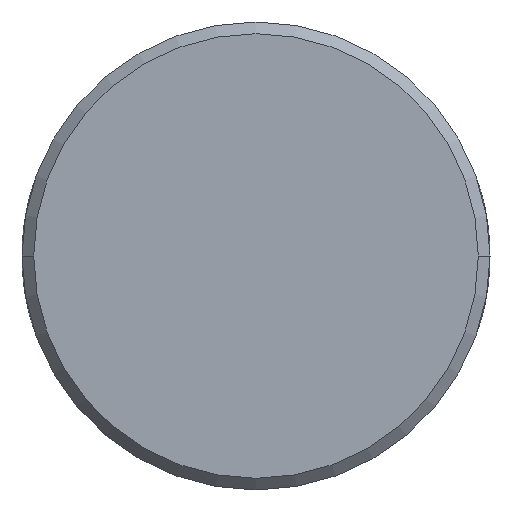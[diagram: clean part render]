
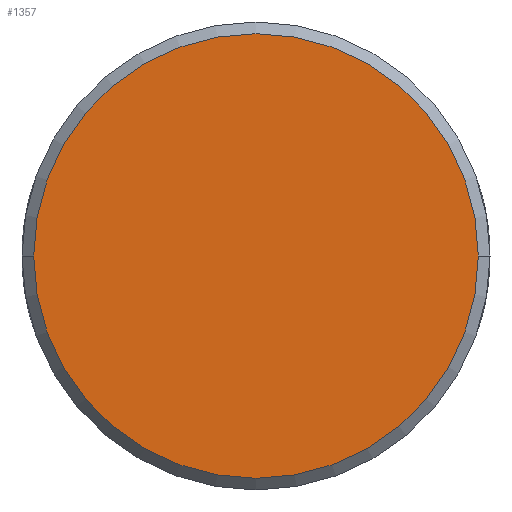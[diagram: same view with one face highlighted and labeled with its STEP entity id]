
A CAD part, front view. The second image highlights one B-rep face of the part: STEP entity #1357.
In plain terms, the highlighted planar face has unit normal (0, -1, 0).
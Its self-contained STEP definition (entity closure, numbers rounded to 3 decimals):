
#1=CARTESIAN_POINT('',(0.,-50.,0.));
#2=DIRECTION('',(0.,-1.,0.));
#3=DIRECTION('',(-1.,0.,0.));
#4=AXIS2_PLACEMENT_3D('',#1,#2,#3);
#6=CARTESIAN_POINT('',(0.,-50.,0.));
#7=DIRECTION('',(0.,-1.,0.));
#8=DIRECTION('',(1.,0.,0.));
#9=AXIS2_PLACEMENT_3D('',#6,#7,#8);
#1263=CARTESIAN_POINT('',(-5.7,-50.,0.));
#1264=CARTESIAN_POINT('',(5.7,-50.,0.));
#1265=VERTEX_POINT('',#1263);
#1266=VERTEX_POINT('',#1264);
#1346=CARTESIAN_POINT('',(0.,-50.,0.));
#1347=DIRECTION('',(0.,1.,0.));
#1348=DIRECTION('',(1.,0.,0.));
#1349=AXIS2_PLACEMENT_3D('',#1346,#1347,#1348);
#1350=PLANE('',#1349);
#1352=ORIENTED_EDGE('',*,*,#1351,.F.);
#1354=ORIENTED_EDGE('',*,*,#1353,.F.);
#1355=EDGE_LOOP('',(#1352,#1354));
#1356=FACE_OUTER_BOUND('',#1355,.F.);
#1357=ADVANCED_FACE('',(#1356),#1350,.F.);
#5=CIRCLE('',#4,5.7);
#10=CIRCLE('',#9,5.7);
#1351=EDGE_CURVE('',#1265,#1266,#5,.T.);
#1353=EDGE_CURVE('',#1266,#1265,#10,.T.);
